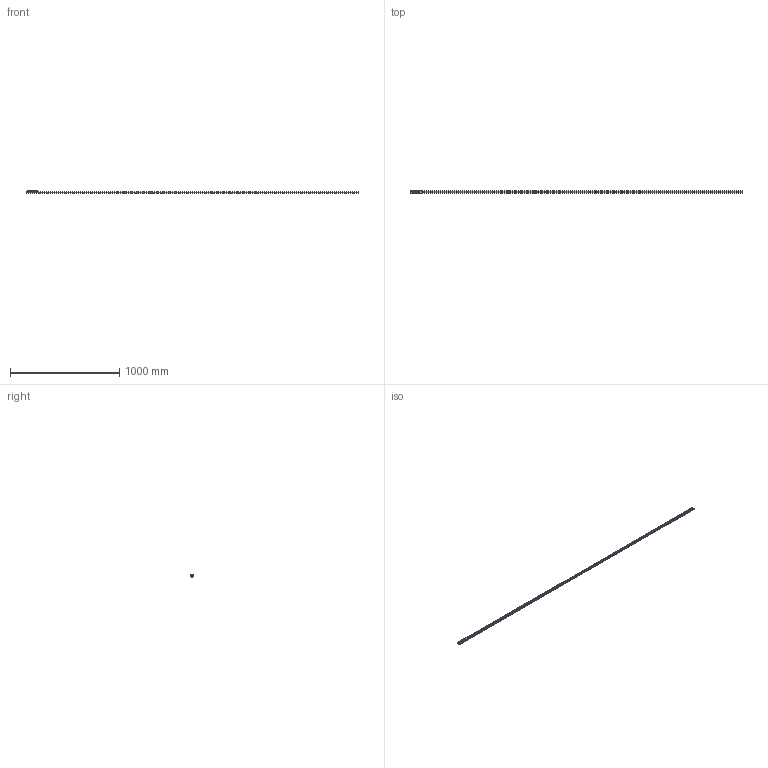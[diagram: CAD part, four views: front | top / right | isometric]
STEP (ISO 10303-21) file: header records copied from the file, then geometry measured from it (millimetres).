
FILE_DESCRIPTION( ( 'STEP AP214' ), '1' );
FILE_NAME( 'p:/temp/worker_22/temp/exporttempdir_996_148_dS7GW/format_1/TEN26-3040-CEN26-92.stp', '2020-05-08T18:54:31', ( 'License CC BY-ND 4.0' ), ( 'CADENAS' ), ' ', 'PARTsolutions', ' ' );
FILE_SCHEMA( ( 'AUTOMOTIVE_DESIGN { 1 0 10303 214 1 1 1 1 }' ) );
Length unit declared in the file: millimetre
Products named in the file (6): TEN26-3040-CEN26-92; _TEN 26-3040; _CEN26-92_1; _RLN26(11.2_M5); _RLA26(11.2_M5); _LAN-26
Assembly tree (8 placements, depth 2):
  TEN26-3040-CEN26-92
    _TEN 26-3040
    _CEN26-92_1
    _RLN26(11.2_M5)  x2
    _RLA26(11.2_M5)
    _LAN-26  x3
Bounding box: 3040 x 26 x 22 mm (x, y, z)
Volume: 327124.4 mm3; surface area: 277496.2 mm2
Topology: 8 solids, 8 shells, 271 faces, 615 edges, 387 vertices
Faces by surface type: plane 131, cylinder 107, cone 24, bspline 9
Full cylindrical faces by diameter (mm): 2.5 x2, 4.134 x5, 4.5 x3, 5 x6, 6.5 x38, 9.3 x3, 11.2 x6, 11.6 x6, 15.7 x6, 16.7 x6
Entity records: 6854 total; most frequent: CARTESIAN_POINT 975, DIRECTION 940, ORIENTED_EDGE 686, AXIS2_PLACEMENT_3D 406, EDGE_LOOP 384, EDGE_CURVE 343, VERTEX_POINT 273, FACE_OUTER_BOUND 260
